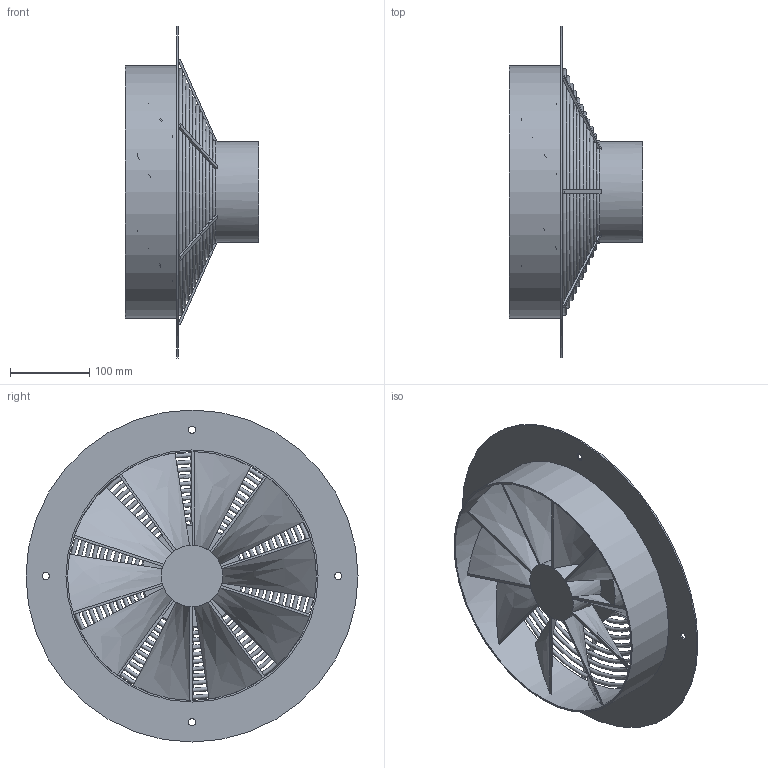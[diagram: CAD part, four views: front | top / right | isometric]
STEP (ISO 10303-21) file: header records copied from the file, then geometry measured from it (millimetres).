
FILE_DESCRIPTION(/* description */ (''),/* implementation_level */ '2;1');
FILE_NAME(/* name */ 'Z:\Output\HWW EC 315 A-04881-001.stp',/* time_stamp */ '2017-06-08T19:38:19+02:00',/* author */ ('Engineering1'),/* organization */ (''),/* preprocessor_version */ 'ST-DEVELOPER v16.5',/* originating_system */ 'Autodesk Inventor 2017',/* authorisation */ '');
FILE_SCHEMA (('AUTOMOTIVE_DESIGN { 1 0 10303 214 3 1 1 }'));
Length unit declared in the file: millimetre
Products named in the file (1): HW-1
Bounding box: 169 x 420 x 420 mm (x, y, z)
Volume: 2127767.7 mm3; surface area: 618167.7 mm2
Topology: 5 solids, 5 shells, 149 faces, 527 edges, 341 vertices
Faces by surface type: plane 98, bspline 30, torus 11, cylinder 10
Full cylindrical faces by diameter (mm): 9 x4, 77.6 x1, 127.6 x2, 315 x1, 319 x1, 420 x1
Entity records: 6567 total; most frequent: CARTESIAN_POINT 1894, ORIENTED_EDGE 1020, DIRECTION 860, EDGE_CURVE 494, VERTEX_POINT 328, AXIS2_PLACEMENT_3D 328, EDGE_LOOP 222, LINE 204
